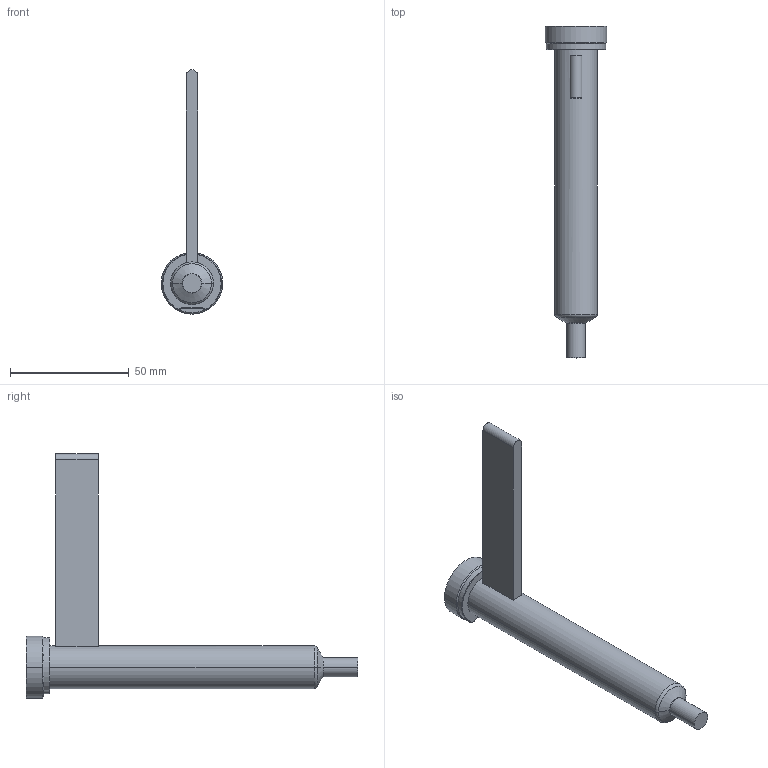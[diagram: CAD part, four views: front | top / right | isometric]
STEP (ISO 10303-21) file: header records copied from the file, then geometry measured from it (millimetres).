
FILE_DESCRIPTION((''),'2;1');
FILE_NAME('EO04_PG-FBE_STD_120_COT','2024-02-19T11:46:31',('sundharh'),(''),'CREO PARAMETRIC BY PTC INC, 2023154','CREO PARAMETRIC BY PTC INC, 2023154','');
FILE_SCHEMA(('CONFIG_CONTROL_DESIGN'));
Length unit declared in the file: millimetre
Products named in the file (1): EO04_PG-FBE_STD_120_COT
Bounding box: 26 x 140 x 103 mm (x, y, z)
Volume: 42152.9 mm3; surface area: 12283 mm2
Topology: 1 solids, 1 shells, 31 faces, 67 edges, 40 vertices
Faces by surface type: cylinder 11, plane 9, torus 7, cone 4
Entity records: 961 total; most frequent: CARTESIAN_POINT 228, DIRECTION 159, ORIENTED_EDGE 134, AXIS2_PLACEMENT_3D 67, EDGE_CURVE 67, VERTEX_POINT 40, CIRCLE 36, EDGE_LOOP 33
